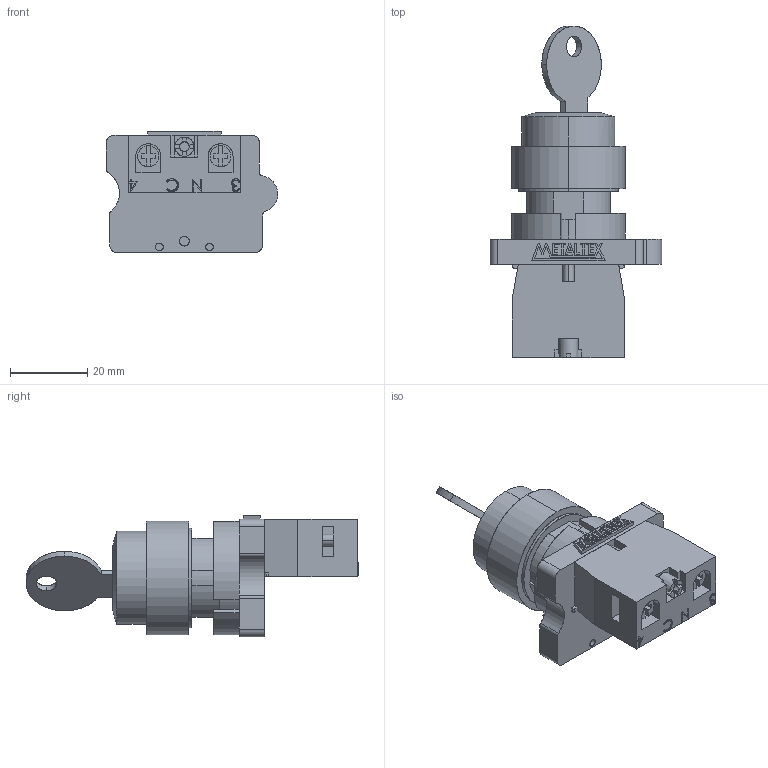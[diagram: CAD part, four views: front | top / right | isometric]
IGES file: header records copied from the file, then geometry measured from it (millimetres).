
Start section: SolidWorks IGES file using analytic representation for surfaces
Global section: file name: D:\X - Arquivos\PROEX\Empresas\P11 - METALTEX\01 - Produtos\IGES\Segunda remessa\P20KNR2-B-1A.IGS; native system: SolidWorks 2012; preprocessor: SolidWorks 2012; author: Usuario; date: 180117.120620; units: millimetre
Bounding box: 44.44 x 86.05 x 31.5 mm (x, y, z)
Surface area: 13680.6 mm2 (no closed solid volume)
Topology: 0 solids, 0 shells, 391 faces, 4167 edges, 4167 vertices
Faces by surface type: bspline 301, revolution 90
